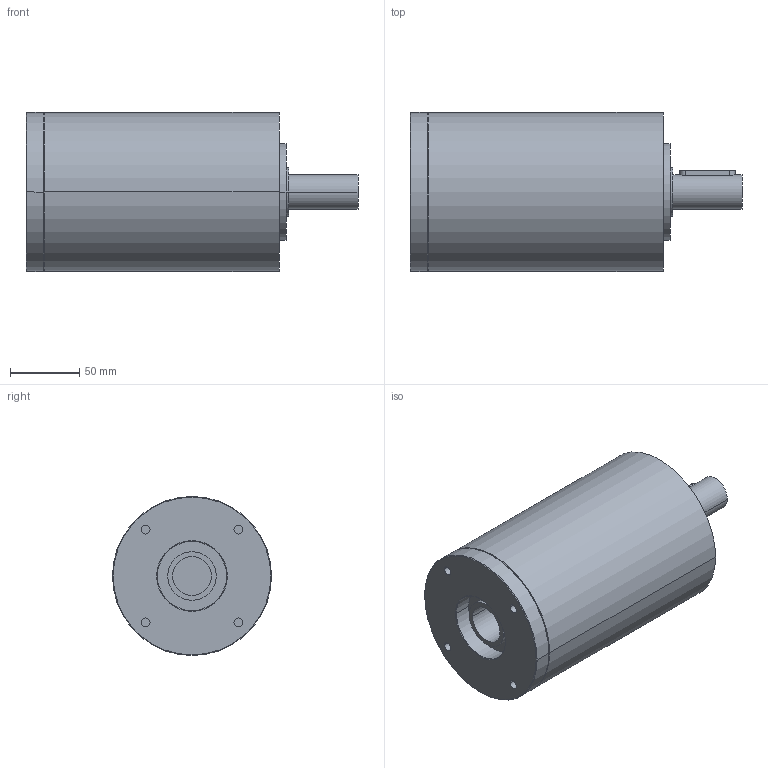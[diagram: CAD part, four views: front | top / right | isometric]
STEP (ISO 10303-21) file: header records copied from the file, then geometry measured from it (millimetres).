
FILE_DESCRIPTION(('CoCreate Modeling STEP Export'),'2;1');
FILE_NAME('GPR125_ig-9-12-16-20-28-35_25_B14_28_P19.stp','2014-08-26T14:11:45',(''),(''),'CoCreate Modeling STEP processor for AP214 (Solid Model)','CoCreate Modeling 16.00C 25-Feb-2009 (C) Parametric Technology GmbH','');
FILE_SCHEMA(('AUTOMOTIVE_DESIGN { 1 0 10303 214 1 1 1 1 }'));
Length unit declared in the file: millimetre
Products named in the file (2): GPR125_ig-9-12-16-20-28-35_25_B14_28_P19
Assembly tree (1 placements, depth 2):
  GPR125_ig-9-12-16-20-28-35_25_B14_28_P19
    GPR125_ig-9-12-16-20-28-35_25_B14_28_P19
Bounding box: 240 x 115 x 115 mm (x, y, z)
Volume: 1887194.8 mm3; surface area: 103930.2 mm2
Topology: 1 solids, 1 shells, 66 faces, 164 edges, 114 vertices
Faces by surface type: cylinder 36, plane 20, cone 10
Entity records: 1675 total; most frequent: ORIENTED_EDGE 324, CARTESIAN_POINT 316, DIRECTION 216, EDGE_CURVE 162, VERTEX_POINT 114, AXIS2_PLACEMENT_3D 82, EDGE_LOOP 82, FACE_OUTER_BOUND 66
